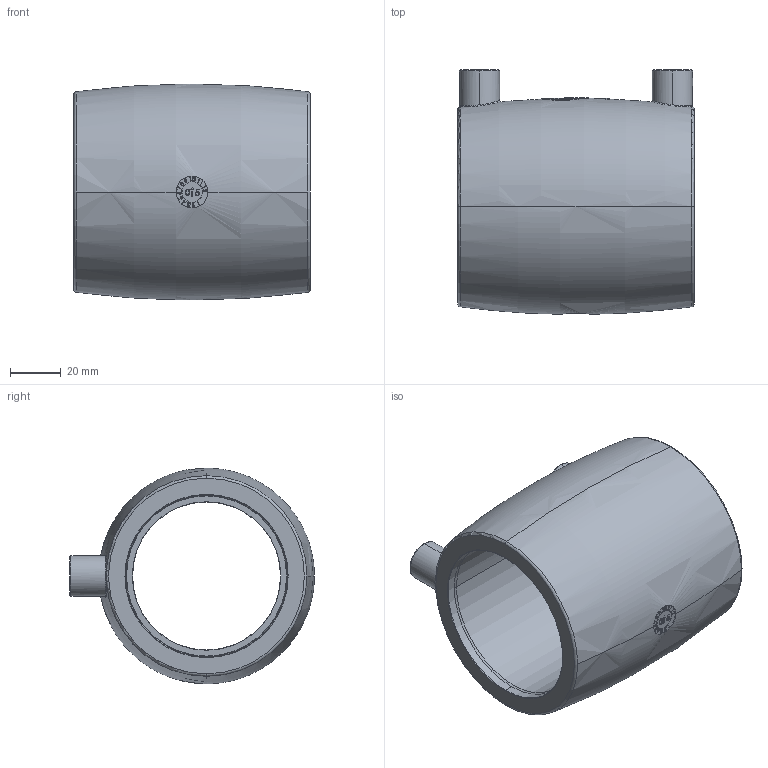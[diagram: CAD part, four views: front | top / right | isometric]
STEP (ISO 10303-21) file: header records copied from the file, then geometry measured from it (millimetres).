
FILE_DESCRIPTION (( 'STEP AP203' ), '1' );
FILE_NAME ('KP_2-63.step', '2011-08-08T12:06:37', ( '' ), ( '' ), 'SwSTEP 2.0', 'SolidWorks 2011', '' );
FILE_SCHEMA (( 'CONFIG_CONTROL_DESIGN' ));
Length unit declared in the file: millimetre
Products named in the file (1): KP_2-63
Bounding box: 93 x 96.34 x 85 mm (x, y, z)
Volume: 212983.9 mm3; surface area: 49872.6 mm2
Topology: 1 solids, 5 shells, 1443 faces, 4065 edges, 2694 vertices
Faces by surface type: plane 1244, bspline 60, cylinder 59, torus 56, cone 24
Entity records: 50081 total; most frequent: CARTESIAN_POINT 13510, ORIENTED_EDGE 8130, DIRECTION 6615, EDGE_CURVE 4065, LINE 3407, VECTOR 3407, VERTEX_POINT 2694, AXIS2_PLACEMENT_3D 1604
